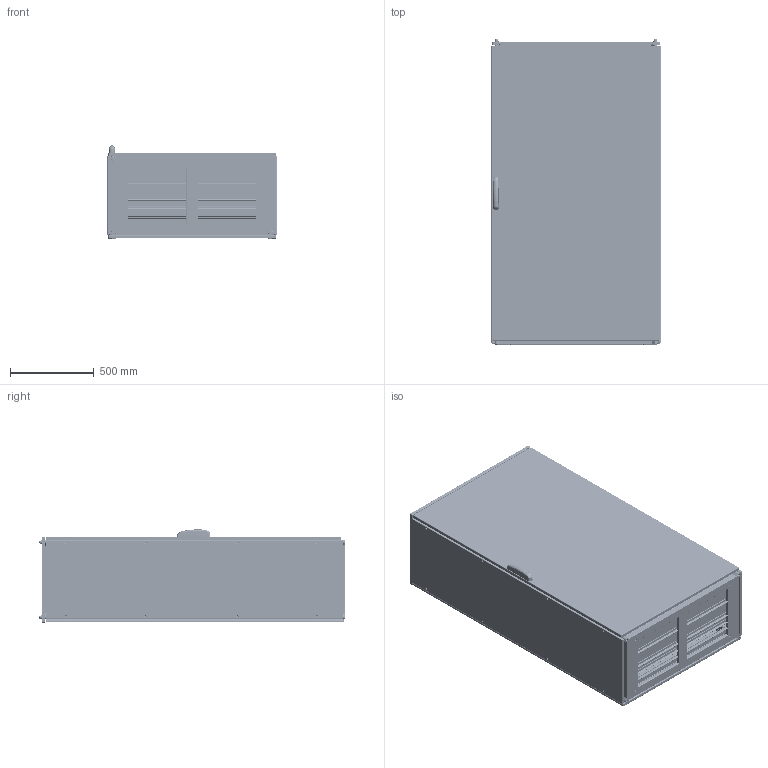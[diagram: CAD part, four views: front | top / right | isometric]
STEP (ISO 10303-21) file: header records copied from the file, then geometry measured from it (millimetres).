
FILE_DESCRIPTION (( 'STEP AP203' ), '1' );
FILE_NAME ('ENUX-101805PRX.STEP', '2025-06-20T09:52:09', ( '' ), ( '' ), 'SwSTEP 2.0', 'SolidWorks 2022', '' );
FILE_SCHEMA (( 'CONFIG_CONTROL_DESIGN' ));
Length unit declared in the file: millimetre
Products named in the file (13): AR_ENUX_Inox_Tegolino_1000x0100; AR_ENUX_Inox_Rosetta_13x24x2.5_inox; AR_ENUX_Inox_Struttura_1000x1800x0500; AR_ENUX_Inox_Vite_tetto_inox; AR_ENUX_Inox_montaggio_porta_singlola_2.0_1000x1800_ANT_DX; AR_ENUX_Inox_Tetto_1000x0500; AR_ENUX_Inox_Retro_singolo_1000x1800; AR_ENUX_Inox_Fianco_0500x1800_SX; AR_ENUX_Inox_Tegolino_1000x0050; AR_ENUX_Inox_Fianco_0500x1800_DX; ENUX-101805PRX; AR_ENUX_nuova_maniglia_mesan; AR_ENUX_Inox_Porta_singola_2.0_1000x1800_ANT
Assembly tree (24 placements, depth 3):
  ENUX-101805PRX
    AR_ENUX_Inox_Struttura_1000x1800x0500
    AR_ENUX_Inox_Retro_singolo_1000x1800
    AR_ENUX_Inox_montaggio_porta_singlola_2.0_1000x1800_ANT_DX
      AR_ENUX_Inox_Porta_singola_2.0_1000x1800_ANT
      AR_ENUX_nuova_maniglia_mesan
    AR_ENUX_Inox_Fianco_0500x1800_SX
    AR_ENUX_Inox_Fianco_0500x1800_DX
    AR_ENUX_Inox_Tetto_1000x0500
    AR_ENUX_Inox_Vite_tetto_inox  x4
    AR_ENUX_Inox_Rosetta_13x24x2.5_inox  x4
    AR_ENUX_Inox_Tegolino_1000x0050  x4
    AR_ENUX_Inox_Tegolino_1000x0100  x4
Bounding box: 1012 x 1823 x 557 mm (x, y, z)
Volume: 13394772.8 mm3; surface area: 19443497.5 mm2
Topology: 23 solids, 24 shells, 9161 faces, 25719 edges, 16500 vertices
Faces by surface type: plane 5007, cylinder 3234, bspline 367, torus 273, cone 212, sphere 68
Entity records: 327519 total; most frequent: CARTESIAN_POINT 90918, ORIENTED_EDGE 49024, DIRECTION 46772, EDGE_CURVE 24512, VECTOR 16810, LINE 16810, VERTEX_POINT 15912, AXIS2_PLACEMENT_3D 14981
